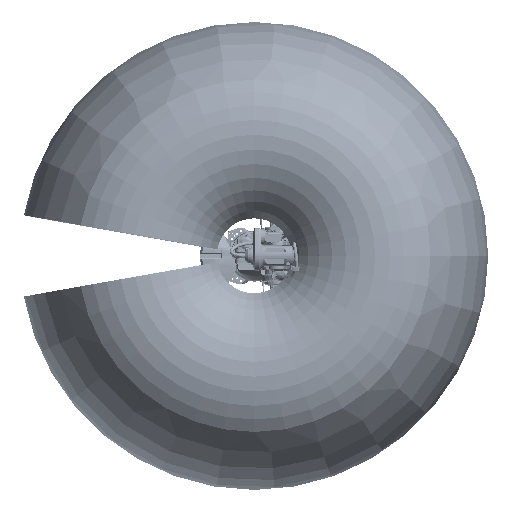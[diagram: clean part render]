
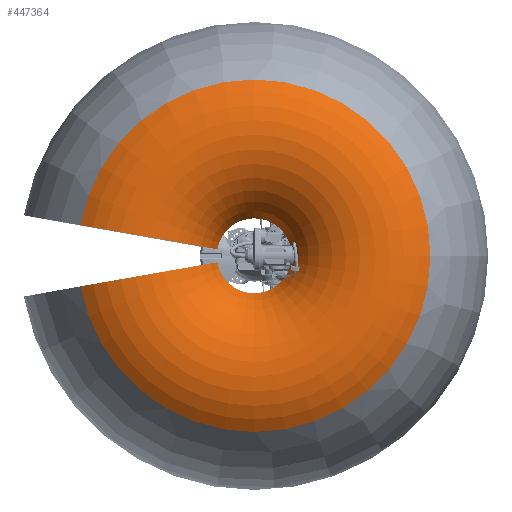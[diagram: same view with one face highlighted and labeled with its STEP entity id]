
A CAD part, top view. The second image highlights one B-rep face of the part: STEP entity #447364.
In plain terms, the highlighted toroidal (fillet/blend) face has major radius 1705.64 mm and minor radius 1295 mm.
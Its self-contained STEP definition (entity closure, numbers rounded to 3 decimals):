
#4267 = VERTEX_POINT ( 'NONE', #296103 ) ;
#19478 = DIRECTION ( 'NONE',  ( 0., 0., -1. ) ) ;
#25380 = CIRCLE ( 'NONE', #264812, 531.973 ) ;
#27610 = CARTESIAN_POINT ( 'NONE',  ( -1679.729, -296.182, 1972.718 ) ) ;
#53372 = CARTESIAN_POINT ( 'NONE',  ( 0., 0., 2520.008 ) ) ;
#65138 = DIRECTION ( 'NONE',  ( 0., 0., 1. ) ) ;
#66391 = DIRECTION ( 'NONE',  ( -1., 0., 0. ) ) ;
#94150 = EDGE_LOOP ( 'NONE', ( #571084, #176489, #160093, #523946 ) ) ;
#99700 = EDGE_CURVE ( 'NONE', #422172, #304191, #289277, .T. ) ;
#99713 = DIRECTION ( 'NONE',  ( 0.174, 0.985, 0. ) ) ;
#103228 = DIRECTION ( 'NONE',  ( 0., 0., -1. ) ) ;
#113323 = CARTESIAN_POINT ( 'NONE',  ( -2464.899, 434.628, 2993.192 ) ) ;
#119019 = AXIS2_PLACEMENT_3D ( 'NONE', #27610, #370819, #467549 ) ;
#149273 = DIRECTION ( 'NONE',  ( -1., 0., 0. ) ) ;
#160093 = ORIENTED_EDGE ( 'NONE', *, *, #99700, .F. ) ;
#162296 = CARTESIAN_POINT ( 'NONE',  ( -2464.899, -434.628, 2993.192 ) ) ;
#176489 = ORIENTED_EDGE ( 'NONE', *, *, #438249, .F. ) ;
#202546 = CARTESIAN_POINT ( 'NONE',  ( -1679.729, 296.182, 1972.718 ) ) ;
#241686 = VERTEX_POINT ( 'NONE', #601384 ) ;
#242914 = CARTESIAN_POINT ( 'NONE',  ( 0., 0., 1972.718 ) ) ;
#243680 = DIRECTION ( 'NONE',  ( -1., 0., 0. ) ) ;
#245235 = CIRCLE ( 'NONE', #494353, 1295. ) ;
#264812 = AXIS2_PLACEMENT_3D ( 'NONE', #53372, #103228, #243680 ) ;
#285214 = AXIS2_PLACEMENT_3D ( 'NONE', #242914, #375065, #149273 ) ;
#289277 = CIRCLE ( 'NONE', #588163, 2502.924 ) ;
#293001 = FACE_OUTER_BOUND ( 'NONE', #94150, .T. ) ;
#296103 = CARTESIAN_POINT ( 'NONE',  ( -523.892, -92.376, 2520.008 ) ) ;
#304191 = VERTEX_POINT ( 'NONE', #162296 ) ;
#318409 = CIRCLE ( 'NONE', #119019, 1295. ) ;
#370819 = DIRECTION ( 'NONE',  ( -0.174, 0.985, 0. ) ) ;
#375065 = DIRECTION ( 'NONE',  ( 0., 0., -1. ) ) ;
#391134 = CARTESIAN_POINT ( 'NONE',  ( 0., 0., 2993.192 ) ) ;
#422172 = VERTEX_POINT ( 'NONE', #113323 ) ;
#438249 = EDGE_CURVE ( 'NONE', #304191, #4267, #318409, .T. ) ;
#447364 = ADVANCED_FACE ( 'NONE', ( #293001 ), #554249, .T. ) ;
#467549 = DIRECTION ( 'NONE',  ( 0., 0., 1. ) ) ;
#482314 = EDGE_CURVE ( 'NONE', #241686, #4267, #25380, .T. ) ;
#494353 = AXIS2_PLACEMENT_3D ( 'NONE', #202546, #99713, #65138 ) ;
#523946 = ORIENTED_EDGE ( 'NONE', *, *, #547124, .T. ) ;
#547124 = EDGE_CURVE ( 'NONE', #422172, #241686, #245235, .T. ) ;
#554249 = TOROIDAL_SURFACE ( 'NONE', #285214, 1705.642, 1295. ) ;
#571084 = ORIENTED_EDGE ( 'NONE', *, *, #482314, .T. ) ;
#588163 = AXIS2_PLACEMENT_3D ( 'NONE', #391134, #19478, #66391 ) ;
#601384 = CARTESIAN_POINT ( 'NONE',  ( -523.892, 92.376, 2520.008 ) ) ;
